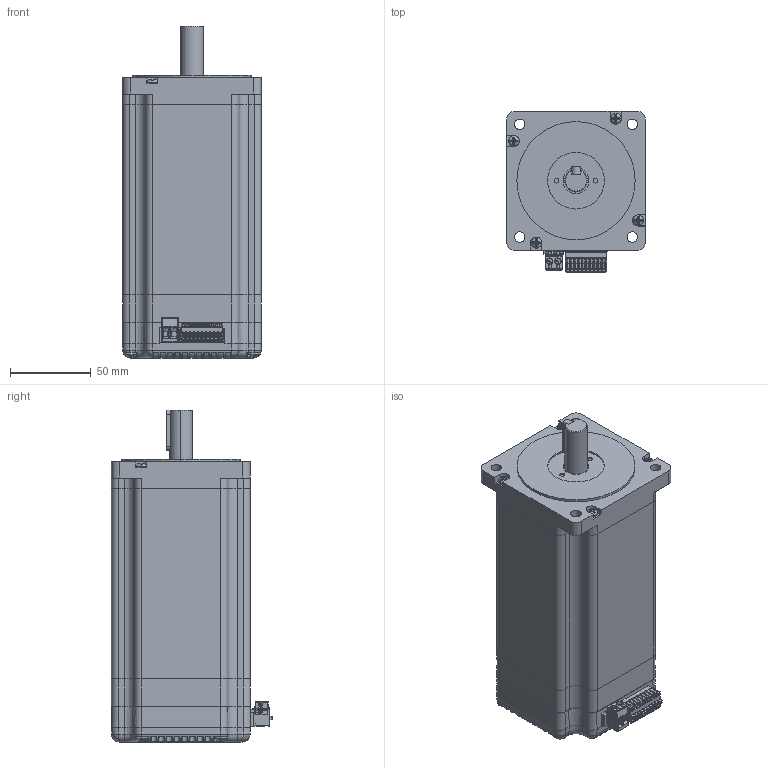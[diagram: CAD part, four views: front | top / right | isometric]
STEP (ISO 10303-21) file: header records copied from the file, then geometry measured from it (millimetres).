
FILE_DESCRIPTION (( 'STEP AP214' ), '1' );
FILE_NAME ('IC86E125.STEP', '2022-11-10T02:08:35', ( '' ), ( '' ), 'SwSTEP 2.0', 'SolidWorks 2022', '' );
FILE_SCHEMA (( 'AUTOMOTIVE_DESIGN' ));
Length unit declared in the file: millimetre
Products named in the file (6): IC86驱动器2; 5.08x2p-GR-脣芛; M4_PreviewCfg; 傷赽脣芛; IC86E125; IC86电机_装配模型使用
Assembly tree (8 placements, depth 2):
  IC86E125
    IC86电机_装配模型使用
    IC86驱动器2
    5.08x2p-GR-脣芛
    傷赽脣芛
    M4_PreviewCfg  x4
Bounding box: 85.8 x 99.5 x 205 mm (x, y, z)
Volume: 1071197.6 mm3; surface area: 132817.2 mm2
Topology: 12 solids, 12 shells, 5794 faces, 15705 edges, 10089 vertices
Faces by surface type: plane 3614, cylinder 1305, bspline 467, cone 215, torus 127, sphere 66
Entity records: 259509 total; most frequent: CARTESIAN_POINT 64991, ORIENTED_EDGE 30910, DIRECTION 27212, EDGE_CURVE 15455, VECTOR 10896, LINE 10896, VERTEX_POINT 9957, AXIS2_PLACEMENT_3D 8158
